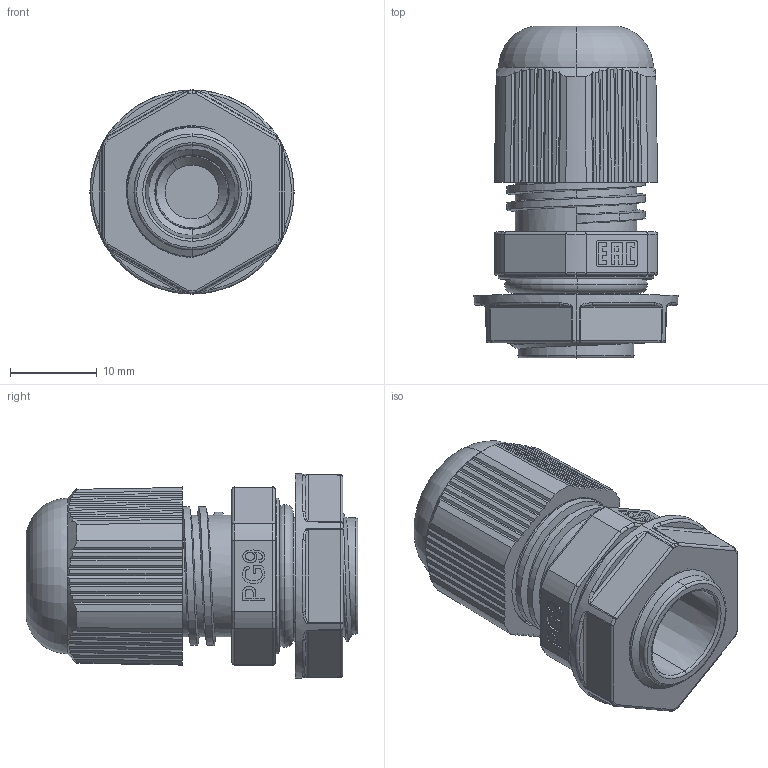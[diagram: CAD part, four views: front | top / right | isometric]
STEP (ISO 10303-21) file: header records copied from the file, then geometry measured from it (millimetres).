
FILE_DESCRIPTION (( 'STEP AP203' ), '1' );
FILE_NAME ('plc-pg-9-00.00.000ÑÁ Ñàëüíèê PG9 #cable gland PG9#.STEP', '2024-02-27T07:19:09', ( '' ), ( '' ), 'SwSTEP 2.0', 'SolidWorks 2021', '' );
FILE_SCHEMA (( 'CONFIG_CONTROL_DESIGN' ));
Length unit declared in the file: millimetre
Products named in the file (6): plc-pg-9-00.00.003 Ãàéêà ïðèæèìíàÿ (PG9-Ì15) #clamping nut (PG9-M15)#; plc-pg-9-00.00.002 Ãàéêà öàíãîâàÿ (PG9) #collet nut (PG9)#; plc-pg-9-00.00.005 ﾌ瑙趺 (PG9) #sealing ring (PG9)#; plc-pg-9-00.00.000ÑÁ Ñàëüíèê PG9 #cable gland PG9#; plc-pg-9-00.00.004 Óïëîòíèòåëü (PG9) #sealant (PG9)#; plc-pg-9-00.00.001 昢膼瘔 (PG9) #base (PG9)#
Assembly tree (5 placements, depth 2):
  plc-pg-9-00.00.000ÑÁ Ñàëüíèê PG9 #cable gland PG9#
    plc-pg-9-00.00.001 昢膼瘔 (PG9) #base (PG9)#
    plc-pg-9-00.00.002 Ãàéêà öàíãîâàÿ (PG9) #collet nut (PG9)#
    plc-pg-9-00.00.003 Ãàéêà ïðèæèìíàÿ (PG9-Ì15) #clamping nut (PG9-M15)#
    plc-pg-9-00.00.004 Óïëîòíèòåëü (PG9) #sealant (PG9)#
    plc-pg-9-00.00.005 ﾌ瑙趺 (PG9) #sealing ring (PG9)#
Bounding box: 23.5 x 38.19 x 23.5 mm (x, y, z)
Volume: 6854.8 mm3; surface area: 9018.9 mm2
Topology: 5 solids, 8 shells, 714 faces, 1892 edges, 1195 vertices
Faces by surface type: plane 343, cylinder 104, cone 102, bspline 77, torus 76, sphere 12
Entity records: 29809 total; most frequent: CARTESIAN_POINT 12948, ORIENTED_EDGE 3760, DIRECTION 2918, EDGE_CURVE 1880, VERTEX_POINT 1195, AXIS2_PLACEMENT_3D 1066, LINE 786, VECTOR 786
